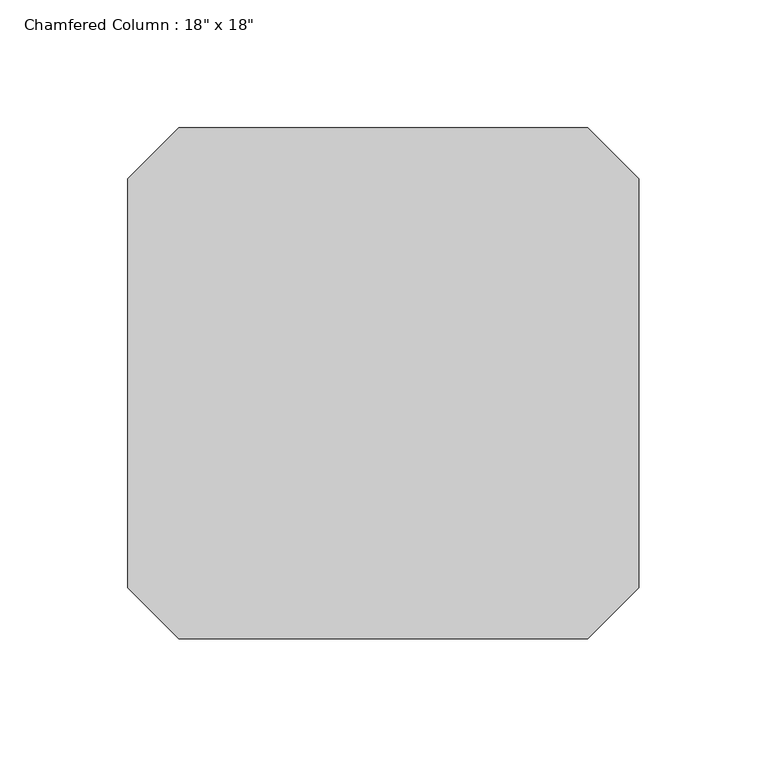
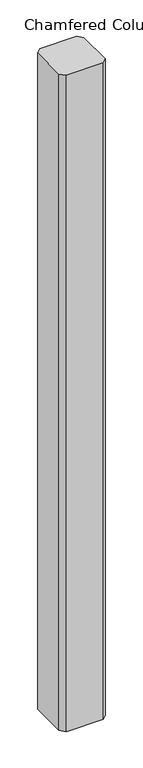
"""IFC4 building model written with IfcOpenShell, lengths in millimetres: column geometry."""

from ifc_helpers import new_model, si_unit, origin, origin_with_axes, place, context, project, spatial, polyline, outline, extrude, source, transform, mapped, element, save


def column_be8452a5(model_context):
    return source(origin(), model_context, "Body", "SweptSolid", [
        extrude(outline(polyline([(-80.0, 100.0), (80.0, 100.0), (100.0, 80.0), (100.0, -80.0), (80.0, -100.0), (-80.0, -100.0), (-100.0, -80.0), (-100.0, 80.0), (-80.0, 100.0)])), origin_with_axes(), (0.0, 0.0, 1.0), 3000.0),
    ])


if __name__ == "__main__":
    model = new_model("IFC4")
    model_context = context("Model", 3, world=origin())
    ifc_project = project(units=[si_unit("LENGTHUNIT", "METRE", prefix="MILLI")], contexts=[model_context])
    site = spatial("IfcSite", under=ifc_project)
    building = spatial("IfcBuilding", under=site)
    placement = place(None, origin())
    column_shape = column_be8452a5(model_context)
    element("IfcColumn", 1, ObjectType="Chamfered Column : 18\" x 18\"", at=placement, inside=building, context=model_context, shape_type="MappedRepresentation", body=[
        mapped(column_shape, transform((0.0, 0.0, 0.0), x_axis=(1.0, 0.0, 0.0), y_axis=(0.0, 1.0, 0.0), z_axis=(0.0, 0.0, 1.0))),
    ])
    save(model, "model.ifc")
